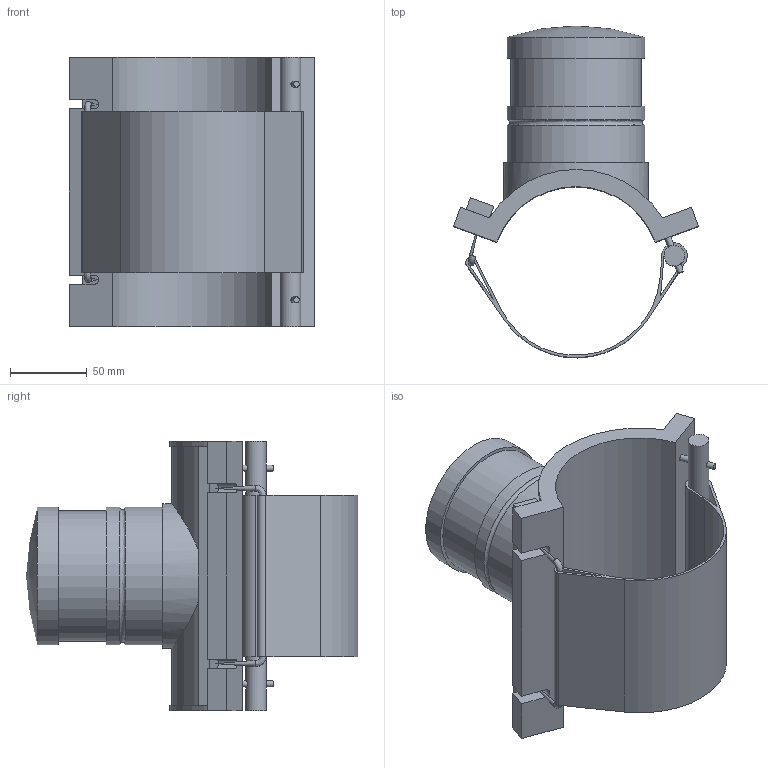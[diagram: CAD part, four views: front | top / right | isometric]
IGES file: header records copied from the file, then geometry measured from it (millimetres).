
Global section: file name: 496804110025.ipt; native system: Autodesk Inventor 2015; preprocessor: unknown; author: KIM; date: 20171106.094406; units: millimetre
Bounding box: 160 x 216.65 x 176 mm (x, y, z)
Volume: 1048675.9 mm3; surface area: 187436.8 mm2
Topology: 2 solids, 2 shells, 72 faces, 177 edges, 116 vertices
Faces by surface type: plane 43, cylinder 19, revolution 9, sphere 1
Full cylindrical faces by diameter (mm): 3.96 x6, 13.454 x1, 85.5 x1, 90 x3, 94.5 x1
